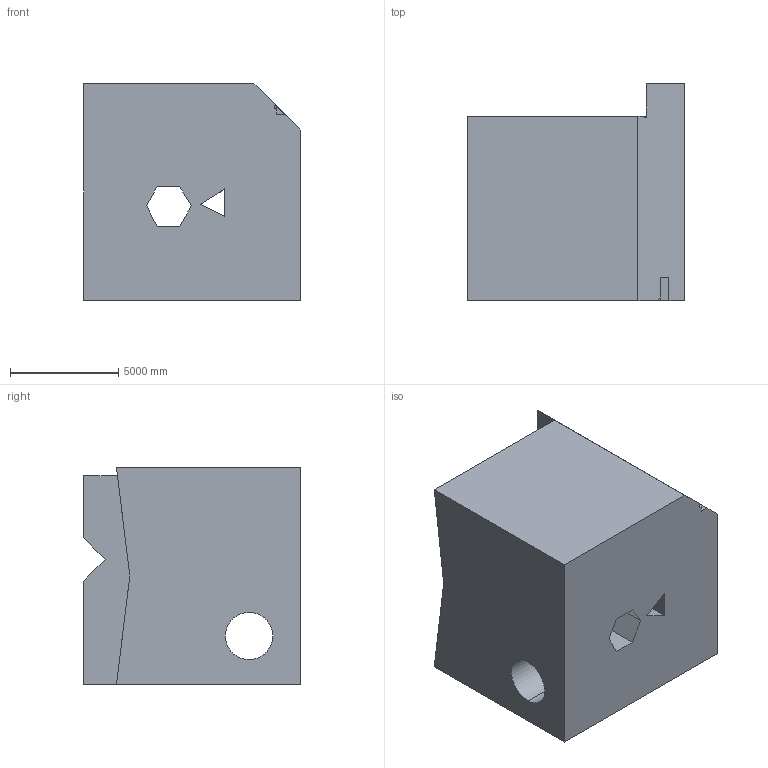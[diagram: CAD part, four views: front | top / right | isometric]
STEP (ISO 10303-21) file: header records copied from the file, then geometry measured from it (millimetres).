
FILE_DESCRIPTION (( 'STEP AP203' ), '1' );
FILE_NAME ('1711.STEP', '2022-08-19T11:57:39', ( 'user' ), ( '' ), 'SwSTEP 2.0', 'SolidWorks 2021', '' );
FILE_SCHEMA (( 'CONFIG_CONTROL_DESIGN' ));
Length unit declared in the file: centimetre
Products named in the file (1): 1711
Bounding box: 10000 x 10000 x 10000 mm (x, y, z)
Volume: 759302206271.9 mm3; surface area: 692022665.2 mm2
Topology: 1 solids, 1 shells, 29 faces, 87 edges, 58 vertices
Faces by surface type: plane 27, cylinder 2
Entity records: 1054 total; most frequent: CARTESIAN_POINT 175, ORIENTED_EDGE 174, DIRECTION 151, EDGE_CURVE 87, LINE 83, VECTOR 83, VERTEX_POINT 58, AXIS2_PLACEMENT_3D 34
